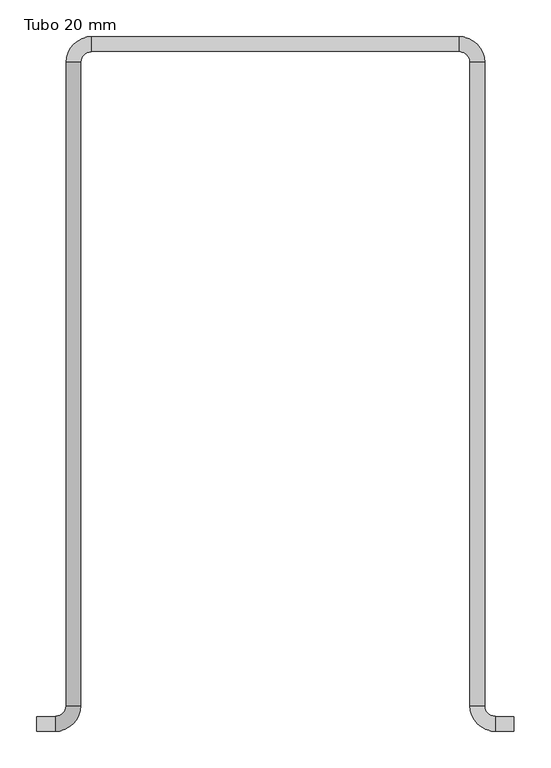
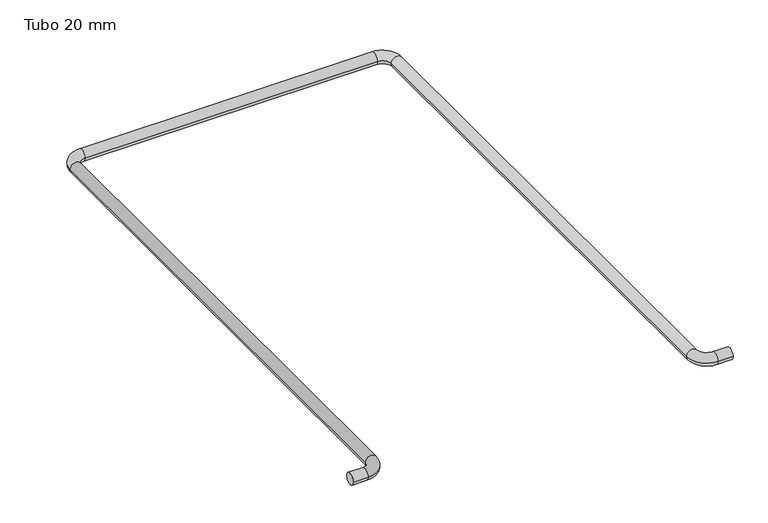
"""IFC4 building model written with IfcOpenShell, lengths in millimetres: railing geometry, Tubo 20 mm."""

from ifc_helpers import new_model, si_unit, point, frame, origin, place, context, project, spatial, circle_curve, ellipse_curve, trimmed, source, transform, mapped, element, save
from ifc_brep_helpers import plane_surface, cylinder_surface, revolved_surface, advanced_brep


def tubo_20_mm_4b636775(model_context):
    return source(origin(), model_context, "Body", "AdvancedBrep", [
        advanced_brep(
        [(-2821.0601801, 4007.3330963, 4050.0), (-2841.0601801, 4007.3330963, 4050.0), (-2841.0601801, 4882.3330963, 4050.0), (-2821.0601801, 4882.3330963, 4050.0), (-2856.0601801, 4917.3330963, 4050.0), (-2856.0601801, 4897.3330963, 4050.0), (-3356.0601801, 4897.3330963, 4050.0), (-3356.0601801, 4917.3330963, 4050.0), (-3391.0601801, 4882.3330963, 4050.0), (-3371.0601801, 4882.3330963, 4050.0), (-3371.0601801, 4007.3330963, 4050.0), (-3391.0601801, 4007.3330963, 4050.0), (-2781.0601801, 3972.3330963, 4050.0), (-2781.0601801, 3992.3330963, 4050.0), (-2806.0601801, 3972.3330963, 4050.0), (-2806.0601801, 3992.3330963, 4050.0), (-3431.0601801, 3972.3330963, 4050.0), (-3431.0601801, 3992.3330963, 4050.0), (-3406.0601801, 3992.3330963, 4050.0), (-3406.0601801, 3972.3330963, 4050.0)],
        [
            (0, 1, circle_curve(frame((-2831.0601801, 4007.3330963, 4050.0), z_axis=(0.0, 1.0, 0.0), x_axis=(1.0, 0.0, 0.0)), 10.0)),
            (1, 2),
            (2, 3, circle_curve(frame((-2831.0601801, 4882.3330963, 4050.0), z_axis=(0.0, -1.0, 0.0), x_axis=(1.0, 0.0, 0.0)), 10.0)),
            (3, 0),
            (1, 0, circle_curve(frame((-2831.0601801, 4007.3330963, 4050.0), z_axis=(0.0, 1.0, 0.0), x_axis=(1.0, 0.0, 0.0)), 10.0)),
            (3, 2, circle_curve(frame((-2831.0601801, 4882.3330963, 4050.0), z_axis=(0.0, -1.0, 0.0), x_axis=(1.0, 0.0, 0.0)), 10.0)),
            (4, 5, circle_curve(frame((-2856.0601801, 4907.3330963, 4050.0), z_axis=(-1.0, 0.0, 0.0), x_axis=(0.0, 1.0, 0.0)), 10.0)),
            (5, 6),
            (6, 7, circle_curve(frame((-3356.0601801, 4907.3330963, 4050.0), z_axis=(1.0, 0.0, 0.0), x_axis=(0.0, 1.0, 0.0)), 10.0)),
            (7, 4),
            (5, 4, circle_curve(frame((-2856.0601801, 4907.3330963, 4050.0), z_axis=(-1.0, 0.0, 0.0), x_axis=(0.0, 1.0, 0.0)), 10.0)),
            (7, 6, circle_curve(frame((-3356.0601801, 4907.3330963, 4050.0), z_axis=(1.0, 0.0, 0.0), x_axis=(0.0, 1.0, 0.0)), 10.0)),
            (8, 9, circle_curve(frame((-3381.0601801, 4882.3330963, 4050.0), z_axis=(0.0, -1.0, 0.0), x_axis=(-1.0, 0.0, 0.0)), 10.0)),
            (9, 10),
            (10, 11, circle_curve(frame((-3381.0601801, 4007.3330963, 4050.0), z_axis=(0.0, 1.0, 0.0), x_axis=(-1.0, 0.0, 0.0)), 10.0)),
            (11, 8),
            (9, 8, circle_curve(frame((-3381.0601801, 4882.3330963, 4050.0), z_axis=(0.0, -1.0, 0.0), x_axis=(-1.0, 0.0, 0.0)), 10.0)),
            (11, 10, circle_curve(frame((-3381.0601801, 4007.3330963, 4050.0), z_axis=(0.0, 1.0, 0.0), x_axis=(-1.0, 0.0, 0.0)), 10.0)),
            (12, 13, circle_curve(frame((-2781.0601801, 3982.3330963, 4050.0), z_axis=(1.0, 0.0, 0.0), x_axis=(0.0, 1.0, 0.0)), 10.0)),
            (13, 12, circle_curve(frame((-2781.0601801, 3982.3330963, 4050.0), z_axis=(1.0, 0.0, 0.0), x_axis=(0.0, 1.0, 0.0)), 10.0)),
            (12, 14),
            (14, 15, circle_curve(frame((-2806.0601801, 3982.3330963, 4050.0), z_axis=(1.0, 0.0, 0.0), x_axis=(0.0, 1.0, 0.0)), 10.0)),
            (15, 13),
            (15, 14, circle_curve(frame((-2806.0601801, 3982.3330963, 4050.0), z_axis=(1.0, 0.0, 0.0), x_axis=(0.0, 1.0, 0.0)), 10.0)),
            (16, 17, circle_curve(frame((-3431.0601801, 3982.3330963, 4050.0), z_axis=(-1.0, 0.0, 0.0), x_axis=(0.0, 1.0, 0.0)), 10.0)),
            (17, 16, circle_curve(frame((-3431.0601801, 3982.3330963, 4050.0), z_axis=(-1.0, 0.0, 0.0), x_axis=(0.0, 1.0, 0.0)), 10.0)),
            (18, 19, circle_curve(frame((-3406.0601801, 3982.3330963, 4050.0), z_axis=(-1.0, 0.0, 0.0), x_axis=(0.0, 1.0, 0.0)), 10.0)),
            (19, 16),
            (17, 18),
            (19, 18, circle_curve(frame((-3406.0601801, 3982.3330963, 4050.0), z_axis=(-1.0, 0.0, 0.0), x_axis=(0.0, 1.0, 0.0)), 10.0)),
            (0, 15, circle_curve(frame((-2806.0601801, 4007.3330963, 4050.0), z_axis=(0.0, 0.0, 1.0), x_axis=(0.0, -1.0, 0.0)), 15.0)),
            (14, 1, circle_curve(frame((-2806.0601801, 4007.3330963, 4050.0), z_axis=(0.0, 0.0, -1.0), x_axis=(0.0, -1.0, 0.0)), 35.0)),
            (4, 3, circle_curve(frame((-2856.0601801, 4882.3330963, 4050.0), z_axis=(0.0, 0.0, -1.0), x_axis=(1.0, 0.0, 0.0)), 35.0)),
            (2, 5, circle_curve(frame((-2856.0601801, 4882.3330963, 4050.0), z_axis=(0.0, 0.0, 1.0), x_axis=(1.0, 0.0, 0.0)), 15.0)),
            (8, 7, circle_curve(frame((-3356.0601801, 4882.3330963, 4050.0), z_axis=(0.0, 0.0, -1.0), x_axis=(0.0, 1.0, 0.0)), 35.0)),
            (6, 9, circle_curve(frame((-3356.0601801, 4882.3330963, 4050.0), z_axis=(0.0, 0.0, 1.0), x_axis=(0.0, 1.0, 0.0)), 15.0)),
            (18, 11, circle_curve(frame((-3406.0601801, 4007.3330963, 4050.0), z_axis=(0.0, 0.0, 1.0), x_axis=(1.0, 0.0, 0.0)), 15.0)),
            (10, 19, circle_curve(frame((-3406.0601801, 4007.3330963, 4050.0), z_axis=(0.0, 0.0, -1.0), x_axis=(1.0, 0.0, 0.0)), 35.0)),
        ],
        [
            cylinder_surface(frame((-2831.0601801, 4007.3330963, 4050.0), z_axis=(0.0, -1.0, 0.0), x_axis=(1.0, 0.0, 0.0)), 10.0),
            cylinder_surface(frame((-2856.0601801, 4907.3330963, 4050.0), z_axis=(1.0, 0.0, 0.0), x_axis=(0.0, 1.0, 0.0)), 10.0),
            cylinder_surface(frame((-3381.0601801, 4882.3330963, 4050.0), z_axis=(0.0, 1.0, 0.0), x_axis=(-1.0, 0.0, 0.0)), 10.0),
            plane_surface(frame((-2781.0601801, 3982.3330963, 4050.0), z_axis=(1.0, 0.0, 0.0), x_axis=(0.0, -1.0, 0.0))),
            cylinder_surface(frame((-2781.0601801, 3982.3330963, 4050.0), z_axis=(1.0, 0.0, 0.0), x_axis=(0.0, 1.0, 0.0)), 10.0),
            plane_surface(frame((-3431.0601801, 3982.3330963, 4050.0), z_axis=(-1.0, 0.0, 0.0), x_axis=(0.0, -1.0, 0.0))),
            cylinder_surface(frame((-3406.0601801, 3982.3330963, 4050.0), z_axis=(1.0, 0.0, 0.0), x_axis=(0.0, 1.0, 0.0)), 10.0),
            revolved_surface(trimmed(ellipse_curve(frame((-2806.0601801, 3982.3330963, 4050.0), z_axis=(1.0, 0.0, 0.0), x_axis=(0.0, 1.0, 0.0)), 10.0, 10.0), [point((-2806.0601801, 3972.3330963, 4050.0))], [point((-2806.0601801, 3992.3330963, 4050.0))], True, "CARTESIAN"), (-2806.0601801, 4007.3330963, 4050.0), (0.0, 0.0, -1.0)),
            revolved_surface(trimmed(ellipse_curve(frame((-2806.0601801, 3982.3330963, 4050.0), z_axis=(1.0, 0.0, 0.0), x_axis=(0.0, 1.0, 0.0)), 10.0, 10.0), [point((-2806.0601801, 3992.3330963, 4050.0))], [point((-2806.0601801, 3972.3330963, 4050.0))], True, "CARTESIAN"), (-2806.0601801, 4007.3330963, 4050.0), (0.0, 0.0, -1.0)),
            revolved_surface(trimmed(ellipse_curve(frame((-2831.0601801, 4882.3330963, 4050.0), z_axis=(0.0, -1.0, 0.0), x_axis=(1.0, 0.0, 0.0)), 10.0, 10.0), [point((-2841.0601801, 4882.3330963, 4050.0))], [point((-2821.0601801, 4882.3330963, 4050.0))], True, "CARTESIAN"), (-2856.0601801, 4882.3330963, 4050.0), (0.0, 0.0, 1.0)),
            revolved_surface(trimmed(ellipse_curve(frame((-2831.0601801, 4882.3330963, 4050.0), z_axis=(0.0, -1.0, 0.0), x_axis=(1.0, 0.0, 0.0)), 10.0, 10.0), [point((-2821.0601801, 4882.3330963, 4050.0))], [point((-2841.0601801, 4882.3330963, 4050.0))], True, "CARTESIAN"), (-2856.0601801, 4882.3330963, 4050.0), (0.0, 0.0, 1.0)),
            revolved_surface(trimmed(ellipse_curve(frame((-3356.0601801, 4907.3330963, 4050.0), z_axis=(1.0, 0.0, 0.0), x_axis=(0.0, 1.0, 0.0)), 10.0, 10.0), [point((-3356.0601801, 4897.3330963, 4050.0))], [point((-3356.0601801, 4917.3330963, 4050.0))], True, "CARTESIAN"), (-3356.0601801, 4882.3330963, 4050.0), (0.0, 0.0, 1.0)),
            revolved_surface(trimmed(ellipse_curve(frame((-3356.0601801, 4907.3330963, 4050.0), z_axis=(1.0, 0.0, 0.0), x_axis=(0.0, 1.0, 0.0)), 10.0, 10.0), [point((-3356.0601801, 4917.3330963, 4050.0))], [point((-3356.0601801, 4897.3330963, 4050.0))], True, "CARTESIAN"), (-3356.0601801, 4882.3330963, 4050.0), (0.0, 0.0, 1.0)),
            revolved_surface(trimmed(ellipse_curve(frame((-3381.0601801, 4007.3330963, 4050.0), z_axis=(0.0, 1.0, 0.0), x_axis=(-1.0, 0.0, 0.0)), 10.0, 10.0), [point((-3371.0601801, 4007.3330963, 4050.0))], [point((-3391.0601801, 4007.3330963, 4050.0))], True, "CARTESIAN"), (-3406.0601801, 4007.3330963, 4050.0), (0.0, 0.0, -1.0)),
            revolved_surface(trimmed(ellipse_curve(frame((-3381.0601801, 4007.3330963, 4050.0), z_axis=(0.0, 1.0, 0.0), x_axis=(-1.0, 0.0, 0.0)), 10.0, 10.0), [point((-3391.0601801, 4007.3330963, 4050.0))], [point((-3371.0601801, 4007.3330963, 4050.0))], True, "CARTESIAN"), (-3406.0601801, 4007.3330963, 4050.0), (0.0, 0.0, -1.0)),
        ],
        [
            (0, [[1, 2, 3, 4]]),
            (0, [[5, -4, 6, -2]]),
            (1, [[7, 8, 9, 10]]),
            (1, [[11, -10, 12, -8]]),
            (2, [[13, 14, 15, 16]]),
            (2, [[17, -16, 18, -14]]),
            (3, [[19, 20]]),
            (4, [[-19, 21, 22, 23]]),
            (4, [[-20, -23, 24, -21]]),
            (5, [[25, 26]]),
            (6, [[27, 28, -26, 29]]),
            (6, [[30, -29, -25, -28]]),
            (7, [[31, -22, 32, -1]]),
            (8, [[-32, -24, -31, -5]]),
            (9, [[33, -3, 34, -7]]),
            (10, [[-34, -6, -33, -11]]),
            (11, [[35, -9, 36, -13]]),
            (12, [[-36, -12, -35, -17]]),
            (13, [[37, -15, 38, -27]]),
            (14, [[-38, -18, -37, -30]]),
        ],
    ),
    ])


if __name__ == "__main__":
    model = new_model("IFC4")
    model_context = context("Model", 3, world=origin())
    ifc_project = project(units=[si_unit("LENGTHUNIT", "METRE", prefix="MILLI")], contexts=[model_context])
    site = spatial("IfcSite", under=ifc_project)
    building = spatial("IfcBuilding", under=site)
    placement = place(None, origin())
    tubo_20_mm_shape = tubo_20_mm_4b636775(model_context)
    element("IfcRailing", 1, ObjectType="Tubo 20 mm", at=placement, inside=building, context=model_context, shape_type="MappedRepresentation", body=[
        mapped(tubo_20_mm_shape, transform((0.0, 0.0, 0.0), x_axis=(1.0, 0.0, 0.0), y_axis=(0.0, 1.0, 0.0), z_axis=(0.0, 0.0, 1.0))),
    ])
    save(model, "model.ifc")
